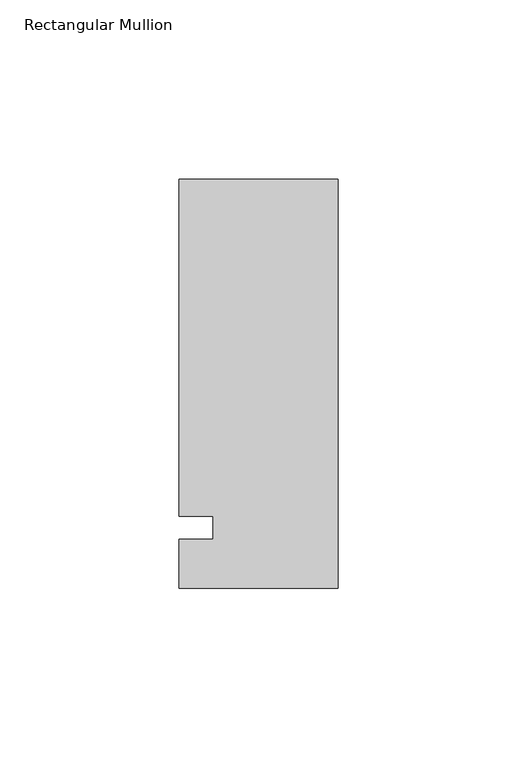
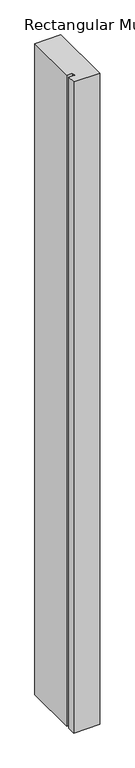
"""IFC4 building model written with IfcOpenShell, lengths in millimetres: member geometry, Rectangular Mullion : Kawneer-TRIFAB_VG_450_BACK_SB_Sill."""

from ifc_helpers import new_model, si_unit, frame, origin, place, context, project, spatial, polyline, outline, extrude, source, transform, mapped, element, save


def rectangular_mullion_386c02e4(model_context):
    return source(origin(), model_context, "Body", "SweptSolid", [
        extrude(outline(polyline([(-44.45, -16.8840492), (-44.45, -3.175), (-34.925, -3.175), (-34.925, 3.175), (-44.45, 3.175), (-44.45, 97.4159508), (0.0, 97.4159508), (0.0, -16.8840492), (-44.45, -16.8840492)])), frame((0.0, 0.0, -1175.3059074), z_axis=(0.0, 0.0, 1.0), x_axis=(1.0, 0.0, 0.0)), (0.0, 0.0, 1.0), 1175.3059074),
    ])


if __name__ == "__main__":
    model = new_model("IFC4")
    model_context = context("Model", 3, world=origin())
    ifc_project = project(units=[si_unit("LENGTHUNIT", "METRE", prefix="MILLI")], contexts=[model_context])
    site = spatial("IfcSite", under=ifc_project)
    building = spatial("IfcBuilding", under=site)
    placement = place(None, origin())
    rectangular_mullion_shape = rectangular_mullion_386c02e4(model_context)
    element("IfcMember", 1, ObjectType="Rectangular Mullion : Kawneer-TRIFAB_VG_450_BACK_SB_Sill", at=placement, inside=building, context=model_context, shape_type="MappedRepresentation", body=[
        mapped(rectangular_mullion_shape, transform((0.0, 0.0, 0.0), x_axis=(1.0, 0.0, 0.0), y_axis=(0.0, 1.0, 0.0), z_axis=(0.0, 0.0, 1.0))),
    ])
    save(model, "model.ifc")
